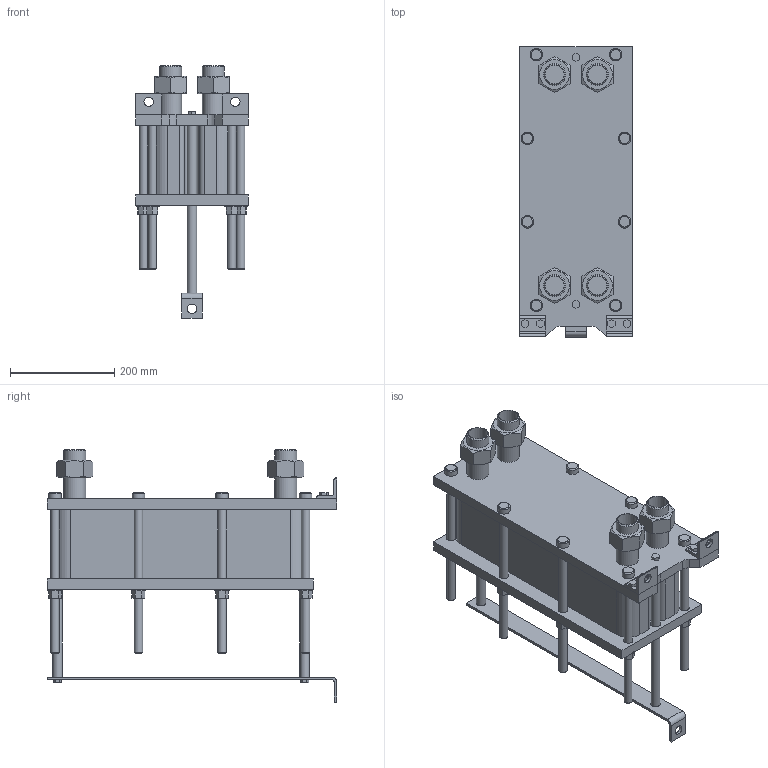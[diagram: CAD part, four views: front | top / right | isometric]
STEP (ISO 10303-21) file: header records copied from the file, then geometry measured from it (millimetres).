
FILE_DESCRIPTION(/* description */ (''),/* implementation_level */ '2;1');
FILE_NAME(/* name */ 'C:\Users\zhuro\Desktop\ENCO\TO\ЭН-004\ЭН-0,5-004-43-1.stp',/* time_stamp */ '2022-06-06T10:46:30+03:00',/* author */ ('zhuro'),/* organization */ (''),/* preprocessor_version */ 'ST-DEVELOPER v18.1',/* originating_system */ 'Autodesk Inventor 2022',/* authorisation */ '');
FILE_SCHEMA (('AUTOMOTIVE_DESIGN { 1 0 10303 214 3 1 1 }'));
Length unit declared in the file: millimetre
Products named in the file (1): ЭН-0,5-004-43-1
Bounding box: 216 x 555 x 483.4 mm (x, y, z)
Volume: 15551414.7 mm3; surface area: 1247628.3 mm2
Topology: 40 solids, 40 shells, 403 faces, 865 edges, 574 vertices
Faces by surface type: plane 272, cylinder 103, cone 28
Full cylindrical faces by diameter (mm): 10 x4, 16 x16, 18 x29, 20 x2, 24 x8, 28 x8, 36.3 x5, 42.3 x9
Entity records: 11137 total; most frequent: CARTESIAN_POINT 1939, DIRECTION 1879, ORIENTED_EDGE 1730, EDGE_CURVE 865, AXIS2_PLACEMENT_3D 658, VERTEX_POINT 574, LINE 563, VECTOR 563
